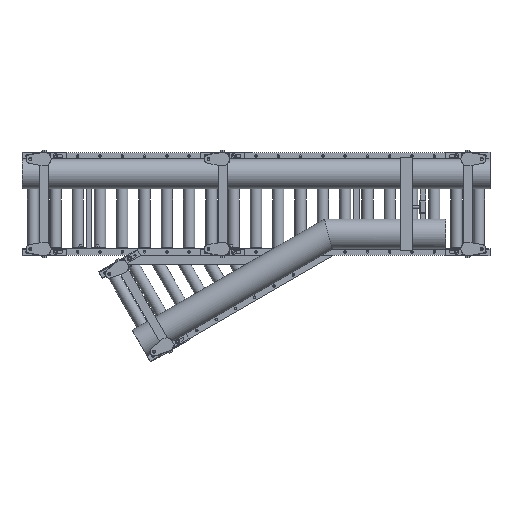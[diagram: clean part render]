
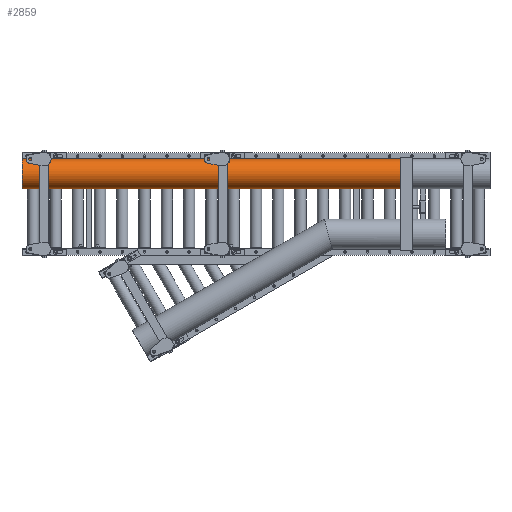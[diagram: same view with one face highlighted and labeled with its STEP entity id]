
A CAD part, front view. The second image highlights one B-rep face of the part: STEP entity #2859.
In plain terms, the highlighted cylindrical face has radius 66.89 mm (diameter 133.78 mm), a partial arc.
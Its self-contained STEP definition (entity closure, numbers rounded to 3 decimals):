
#2859=ADVANCED_FACE('',(#12491),#12490,.T.);
#12490=CYLINDRICAL_SURFACE('',#50457,66.89);
#12491=FACE_OUTER_BOUND('',#50458,.T.);
#50454=CARTESIAN_POINT('',(-2277.652,-150.,135.11));
#50455=DIRECTION('',(-1.,0.,0.));
#50456=DIRECTION('',(0.,0.,1.));
#50457=AXIS2_PLACEMENT_3D('',#50454,#50455,#50456);
#50458=EDGE_LOOP('',(#72281,#72282,#72283,#72284));
#72281=ORIENTED_EDGE('',*,*,#91474,.T.);
#72282=ORIENTED_EDGE('',*,*,#91475,.T.);
#72283=ORIENTED_EDGE('',*,*,#91472,.F.);
#72284=ORIENTED_EDGE('',*,*,#90433,.F.);
#90433=EDGE_CURVE('',#106974,#106981,#106982,.T.);
#91472=EDGE_CURVE('',#106981,#113854,#113855,.T.);
#91474=EDGE_CURVE('',#106974,#113867,#113868,.T.);
#91475=EDGE_CURVE('',#113867,#113854,#113874,.T.);
#106974=VERTEX_POINT('',#174481);
#106981=VERTEX_POINT('',#174485);
#106982=CIRCLE('',#174489,66.89);
#113854=VERTEX_POINT('',#178387);
#113855=LINE('',#178388,#178389);
#113867=VERTEX_POINT('',#178394);
#113868=LINE('',#178395,#178396);
#113874=CIRCLE('',#178401,66.89);
#174481=CARTESIAN_POINT('',(-2100.,-150.,68.22));
#174485=CARTESIAN_POINT('',(-2100.,-150.,202.));
#174486=CARTESIAN_POINT('',(-2100.,-150.,135.11));
#174487=DIRECTION('',(-1.,0.,0.));
#174488=DIRECTION('',(0.,0.,1.));
#174489=AXIS2_PLACEMENT_3D('',#174486,#174487,#174488);
#178387=CARTESIAN_POINT('',(-402.5,-150.,202.));
#178388=CARTESIAN_POINT('',(-2100.,-150.,202.));
#178389=VECTOR('',#178390,1697.5);
#178390=DIRECTION('',(1.,0.,0.));
#178394=CARTESIAN_POINT('',(-402.5,-150.,68.22));
#178395=CARTESIAN_POINT('',(-2100.,-150.,68.22));
#178396=VECTOR('',#178397,1697.5);
#178397=DIRECTION('',(1.,0.,0.));
#178398=CARTESIAN_POINT('',(-402.5,-150.,135.11));
#178399=DIRECTION('',(-1.,0.,0.));
#178400=DIRECTION('',(0.,0.,1.));
#178401=AXIS2_PLACEMENT_3D('',#178398,#178399,#178400);
